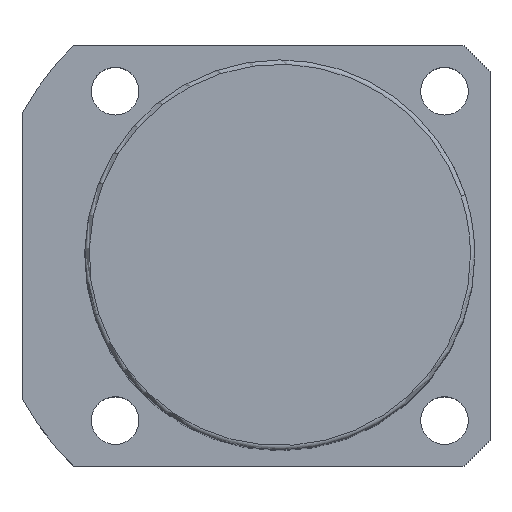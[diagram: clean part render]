
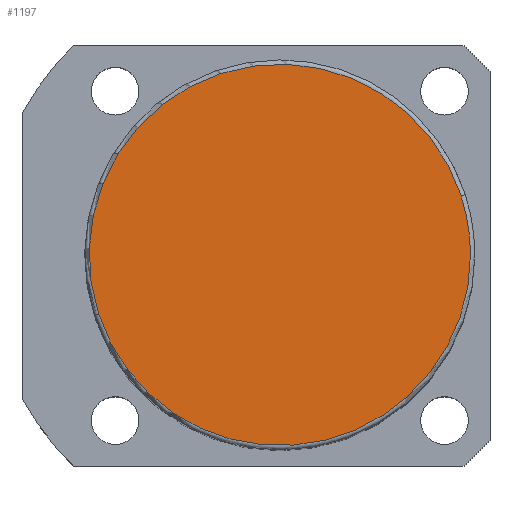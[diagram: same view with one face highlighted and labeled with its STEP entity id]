
A CAD part, top view. The second image highlights one B-rep face of the part: STEP entity #1197.
In plain terms, the highlighted planar face has unit normal (0, 0, 1).
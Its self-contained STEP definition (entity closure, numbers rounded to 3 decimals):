
#1130=CARTESIAN_POINT('',(41.846,13.597,146.5));
#1131=VERTEX_POINT('',#1130);
#1149=CARTESIAN_POINT('',(-41.846,-13.597,146.5));
#1150=VERTEX_POINT('',#1149);
#1158=CARTESIAN_POINT('',(0.0,0.0,146.5));
#1159=DIRECTION('',(0.0,0.0,1.0));
#1160=DIRECTION('',(1.0,0.0,0.0));
#1161=AXIS2_PLACEMENT_3D('',#1158,#1159,#1160);
#1162=CIRCLE('',#1161,44.0);
#1163=EDGE_CURVE('no 1735',#1131,#1150,#1162,.T.);
#1173=CARTESIAN_POINT('',(44.0,0.0,146.5));
#1174=VERTEX_POINT('',#1173);
#1175=CARTESIAN_POINT('',(0.0,0.0,146.5));
#1176=DIRECTION('',(0.0,0.0,1.0));
#1177=DIRECTION('',(1.0,0.0,0.0));
#1178=AXIS2_PLACEMENT_3D('',#1175,#1176,#1177);
#1179=CIRCLE('',#1178,44.0);
#1180=EDGE_CURVE('no 1744',#1174,#1131,#1179,.T.);
#1181=ORIENTED_EDGE('',*,*,#1180,.T.);
#1182=ORIENTED_EDGE('',*,*,#1163,.T.);
#1183=CARTESIAN_POINT('',(0.0,0.0,146.5));
#1184=DIRECTION('',(0.0,0.0,1.0));
#1185=DIRECTION('',(1.0,0.0,0.0));
#1186=AXIS2_PLACEMENT_3D('',#1183,#1184,#1185);
#1187=CIRCLE('',#1186,44.0);
#1188=EDGE_CURVE('no 1750',#1150,#1174,#1187,.T.);
#1189=ORIENTED_EDGE('',*,*,#1188,.T.);
#1190=EDGE_LOOP('',(#1181,#1182,#1189));
#1191=FACE_OUTER_BOUND('',#1190,.T.);
#1192=CARTESIAN_POINT('',(0.0,0.0,146.5));
#1193=DIRECTION('',(0.0,0.0,1.0));
#1194=DIRECTION('',(1.0,0.0,0.0));
#1195=AXIS2_PLACEMENT_3D('',#1192,#1193,#1194);
#1196=PLANE('',#1195);
#1197=ADVANCED_FACE('no 1737',(#1191),#1196,.T.);
